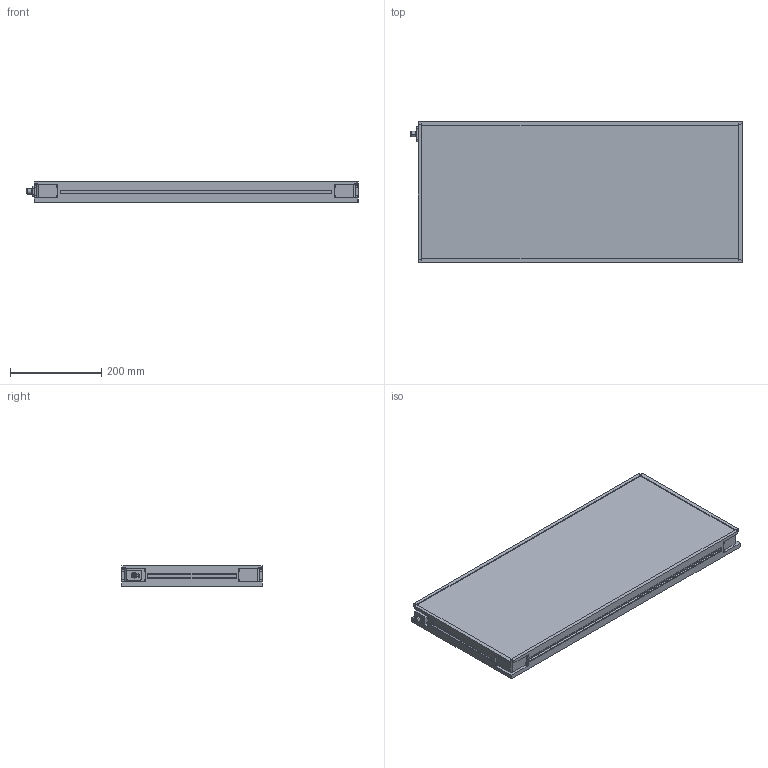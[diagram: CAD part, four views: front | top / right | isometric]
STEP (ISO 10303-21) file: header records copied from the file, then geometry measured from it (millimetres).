
FILE_DESCRIPTION (( 'STEP AP214' ), '1' );
FILE_NAME ('MBACK-xxxx-xxx-M1_CLIENT300x700.STEP', '2022-03-31T16:03:25', ( '' ), ( '' ), 'SwSTEP 2.0', 'SolidWorks 2020', '' );
FILE_SCHEMA (( 'AUTOMOTIVE_DESIGN' ));
Length unit declared in the file: millimetre
Products named in the file (1): MBACK-xxxx-xxx-M1_CLIENT300x700
Bounding box: 725.9 x 308 x 45.5 mm (x, y, z)
Volume: 9024471.6 mm3; surface area: 570895.3 mm2
Topology: 1 solids, 1 shells, 442 faces, 1144 edges, 760 vertices
Faces by surface type: plane 249, cylinder 105, bspline 80, cone 8
Entity records: 17236 total; most frequent: CARTESIAN_POINT 6699, ORIENTED_EDGE 2288, DIRECTION 1936, EDGE_CURVE 1144, VERTEX_POINT 760, VECTOR 758, LINE 758, AXIS2_PLACEMENT_3D 589
